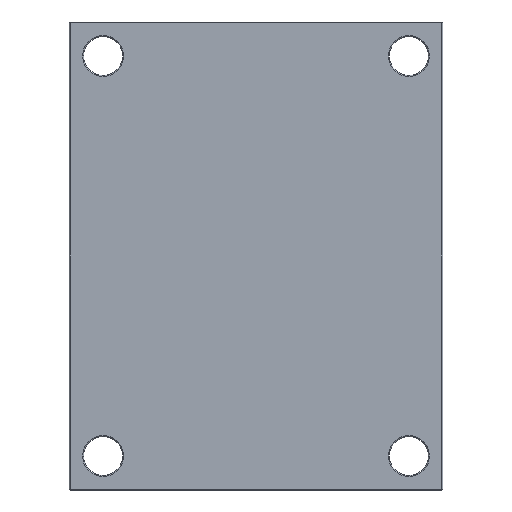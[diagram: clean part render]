
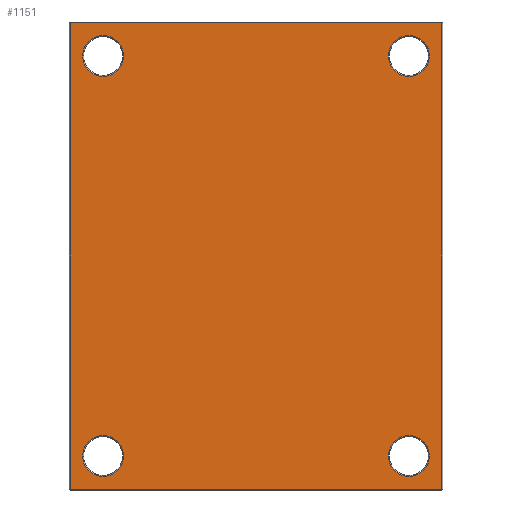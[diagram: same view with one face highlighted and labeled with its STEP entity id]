
A CAD part, front view. The second image highlights one B-rep face of the part: STEP entity #1151.
In plain terms, the highlighted planar face has unit normal (0, -1, 0).
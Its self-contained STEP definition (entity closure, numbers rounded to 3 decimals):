
#22 = VERTEX_POINT ( 'NONE', #212 ) ;
#27 = PLANE ( 'NONE',  #1826 ) ;
#43 = EDGE_LOOP ( 'NONE', ( #345, #107 ) ) ;
#65 = ORIENTED_EDGE ( 'NONE', *, *, #333, .T. ) ;
#71 = VERTEX_POINT ( 'NONE', #1719 ) ;
#79 = CARTESIAN_POINT ( 'NONE',  ( 0., 0., 0. ) ) ;
#103 = FACE_BOUND ( 'NONE', #636, .T. ) ;
#107 = ORIENTED_EDGE ( 'NONE', *, *, #298, .T. ) ;
#113 = VERTEX_POINT ( 'NONE', #282 ) ;
#120 = CARTESIAN_POINT ( 'NONE',  ( 162., 0., 212. ) ) ;
#129 = ORIENTED_EDGE ( 'NONE', *, *, #1042, .T. ) ;
#146 = DIRECTION ( 'NONE',  ( 0., 1., 0. ) ) ;
#158 = CARTESIAN_POINT ( 'NONE',  ( -197., 0., 0. ) ) ;
#163 = CARTESIAN_POINT ( 'NONE',  ( -162., 0., -212. ) ) ;
#172 = CARTESIAN_POINT ( 'NONE',  ( -162., 0., 212. ) ) ;
#184 = DIRECTION ( 'NONE',  ( 0., 1., 0. ) ) ;
#192 = ORIENTED_EDGE ( 'NONE', *, *, #325, .T. ) ;
#196 = DIRECTION ( 'NONE',  ( 0., 0., 1. ) ) ;
#212 = CARTESIAN_POINT ( 'NONE',  ( -162., 0., 190.35 ) ) ;
#216 = LINE ( 'NONE', #158, #1507 ) ;
#219 = CARTESIAN_POINT ( 'NONE',  ( 0., 0., 247. ) ) ;
#260 = DIRECTION ( 'NONE',  ( 0., 1., 0. ) ) ;
#269 = DIRECTION ( 'NONE',  ( 0., 0., 1. ) ) ;
#282 = CARTESIAN_POINT ( 'NONE',  ( -197., 0., 247. ) ) ;
#283 = VECTOR ( 'NONE', #1802, 1000. ) ;
#298 = EDGE_CURVE ( 'NONE', #877, #22, #317, .T. ) ;
#299 = DIRECTION ( 'NONE',  ( 0., 0., 1. ) ) ;
#303 = EDGE_CURVE ( 'NONE', #978, #1371, #1056, .T. ) ;
#305 = EDGE_CURVE ( 'NONE', #1480, #1677, #1559, .T. ) ;
#308 = CIRCLE ( 'NONE', #1428, 21.65 ) ;
#317 = CIRCLE ( 'NONE', #1244, 21.65 ) ;
#325 = EDGE_CURVE ( 'NONE', #71, #113, #672, .T. ) ;
#333 = EDGE_CURVE ( 'NONE', #113, #1868, #216, .T. ) ;
#345 = ORIENTED_EDGE ( 'NONE', *, *, #958, .T. ) ;
#347 = EDGE_CURVE ( 'NONE', #2178, #1256, #1943, .T. ) ;
#468 = CARTESIAN_POINT ( 'NONE',  ( 0., 0., -247. ) ) ;
#484 = DIRECTION ( 'NONE',  ( 1., 0., 0. ) ) ;
#507 = CARTESIAN_POINT ( 'NONE',  ( -162., 0., -233.65 ) ) ;
#517 = DIRECTION ( 'NONE',  ( -1., 0., 0. ) ) ;
#518 = VERTEX_POINT ( 'NONE', #1506 ) ;
#535 = FACE_BOUND ( 'NONE', #1956, .T. ) ;
#540 = CARTESIAN_POINT ( 'NONE',  ( 162., 0., -212. ) ) ;
#544 = DIRECTION ( 'NONE',  ( 0., 1., 0. ) ) ;
#547 = DIRECTION ( 'NONE',  ( 0., 0., 1. ) ) ;
#582 = ORIENTED_EDGE ( 'NONE', *, *, #303, .T. ) ;
#632 = DIRECTION ( 'NONE',  ( 0., 0., 1. ) ) ;
#636 = EDGE_LOOP ( 'NONE', ( #693, #582 ) ) ;
#672 = LINE ( 'NONE', #219, #1129 ) ;
#693 = ORIENTED_EDGE ( 'NONE', *, *, #1085, .T. ) ;
#695 = DIRECTION ( 'NONE',  ( 0., 1., 0. ) ) ;
#702 = CARTESIAN_POINT ( 'NONE',  ( 162., 0., 212. ) ) ;
#714 = ORIENTED_EDGE ( 'NONE', *, *, #305, .T. ) ;
#726 = LINE ( 'NONE', #1476, #283 ) ;
#738 = CARTESIAN_POINT ( 'NONE',  ( 162., 0., -212. ) ) ;
#747 = DIRECTION ( 'NONE',  ( 0., 1., 0. ) ) ;
#760 = DIRECTION ( 'NONE',  ( 0., 0., 1. ) ) ;
#765 = EDGE_LOOP ( 'NONE', ( #129, #192, #65, #1876 ) ) ;
#806 = DIRECTION ( 'NONE',  ( 0., 0., -1. ) ) ;
#814 = CIRCLE ( 'NONE', #1616, 21.65 ) ;
#835 = CARTESIAN_POINT ( 'NONE',  ( -162., 0., 233.65 ) ) ;
#846 = EDGE_CURVE ( 'NONE', #1677, #1480, #1084, .T. ) ;
#877 = VERTEX_POINT ( 'NONE', #835 ) ;
#904 = CARTESIAN_POINT ( 'NONE',  ( -162., 0., -212. ) ) ;
#913 = DIRECTION ( 'NONE',  ( 0., 1., 0. ) ) ;
#928 = DIRECTION ( 'NONE',  ( 0., 0., 1. ) ) ;
#958 = EDGE_CURVE ( 'NONE', #22, #877, #308, .T. ) ;
#978 = VERTEX_POINT ( 'NONE', #1887 ) ;
#997 = EDGE_CURVE ( 'NONE', #1256, #2178, #1497, .T. ) ;
#1022 = ORIENTED_EDGE ( 'NONE', *, *, #846, .T. ) ;
#1042 = EDGE_CURVE ( 'NONE', #518, #71, #726, .T. ) ;
#1056 = CIRCLE ( 'NONE', #1251, 21.65 ) ;
#1083 = CARTESIAN_POINT ( 'NONE',  ( -162., 0., -190.35 ) ) ;
#1084 = CIRCLE ( 'NONE', #1380, 21.65 ) ;
#1085 = EDGE_CURVE ( 'NONE', #1371, #978, #814, .T. ) ;
#1093 = CARTESIAN_POINT ( 'NONE',  ( 162., 0., 190.35 ) ) ;
#1129 = VECTOR ( 'NONE', #517, 1000. ) ;
#1151 = ADVANCED_FACE ( 'NONE', ( #1449, #535, #103, #1834, #1388 ), #27, .F. ) ;
#1244 = AXIS2_PLACEMENT_3D ( 'NONE', #172, #184, #196 ) ;
#1251 = AXIS2_PLACEMENT_3D ( 'NONE', #702, #695, #632 ) ;
#1255 = AXIS2_PLACEMENT_3D ( 'NONE', #738, #747, #760 ) ;
#1256 = VERTEX_POINT ( 'NONE', #507 ) ;
#1265 = AXIS2_PLACEMENT_3D ( 'NONE', #904, #913, #928 ) ;
#1371 = VERTEX_POINT ( 'NONE', #1093 ) ;
#1380 = AXIS2_PLACEMENT_3D ( 'NONE', #540, #544, #547 ) ;
#1388 = FACE_OUTER_BOUND ( 'NONE', #765, .T. ) ;
#1395 = ORIENTED_EDGE ( 'NONE', *, *, #347, .T. ) ;
#1419 = LINE ( 'NONE', #468, #1718 ) ;
#1428 = AXIS2_PLACEMENT_3D ( 'NONE', #1509, #1519, #1539 ) ;
#1449 = FACE_BOUND ( 'NONE', #2076, .T. ) ;
#1467 = AXIS2_PLACEMENT_3D ( 'NONE', #163, #146, #299 ) ;
#1476 = CARTESIAN_POINT ( 'NONE',  ( 197., 0., 0. ) ) ;
#1480 = VERTEX_POINT ( 'NONE', #1483 ) ;
#1483 = CARTESIAN_POINT ( 'NONE',  ( 162., 0., -190.35 ) ) ;
#1497 = CIRCLE ( 'NONE', #1467, 21.65 ) ;
#1506 = CARTESIAN_POINT ( 'NONE',  ( 197., 0., -247. ) ) ;
#1507 = VECTOR ( 'NONE', #806, 1000. ) ;
#1509 = CARTESIAN_POINT ( 'NONE',  ( -162., 0., 212. ) ) ;
#1519 = DIRECTION ( 'NONE',  ( 0., 1., 0. ) ) ;
#1539 = DIRECTION ( 'NONE',  ( 0., 0., 1. ) ) ;
#1559 = CIRCLE ( 'NONE', #1255, 21.65 ) ;
#1601 = CARTESIAN_POINT ( 'NONE',  ( -197., 0., -247. ) ) ;
#1616 = AXIS2_PLACEMENT_3D ( 'NONE', #120, #2152, #2143 ) ;
#1677 = VERTEX_POINT ( 'NONE', #2042 ) ;
#1718 = VECTOR ( 'NONE', #484, 1000. ) ;
#1719 = CARTESIAN_POINT ( 'NONE',  ( 197., 0., 247. ) ) ;
#1802 = DIRECTION ( 'NONE',  ( 0., 0., 1. ) ) ;
#1826 = AXIS2_PLACEMENT_3D ( 'NONE', #79, #260, #269 ) ;
#1834 = FACE_BOUND ( 'NONE', #43, .T. ) ;
#1868 = VERTEX_POINT ( 'NONE', #1601 ) ;
#1876 = ORIENTED_EDGE ( 'NONE', *, *, #1950, .T. ) ;
#1887 = CARTESIAN_POINT ( 'NONE',  ( 162., 0., 233.65 ) ) ;
#1943 = CIRCLE ( 'NONE', #1265, 21.65 ) ;
#1950 = EDGE_CURVE ( 'NONE', #1868, #518, #1419, .T. ) ;
#1956 = EDGE_LOOP ( 'NONE', ( #1022, #714 ) ) ;
#2041 = ORIENTED_EDGE ( 'NONE', *, *, #997, .T. ) ;
#2042 = CARTESIAN_POINT ( 'NONE',  ( 162., 0., -233.65 ) ) ;
#2076 = EDGE_LOOP ( 'NONE', ( #2041, #1395 ) ) ;
#2143 = DIRECTION ( 'NONE',  ( 0., 0., 1. ) ) ;
#2152 = DIRECTION ( 'NONE',  ( 0., 1., 0. ) ) ;
#2178 = VERTEX_POINT ( 'NONE', #1083 ) ;
